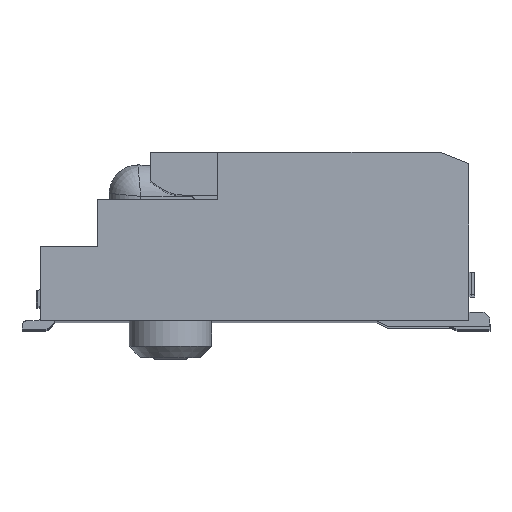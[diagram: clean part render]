
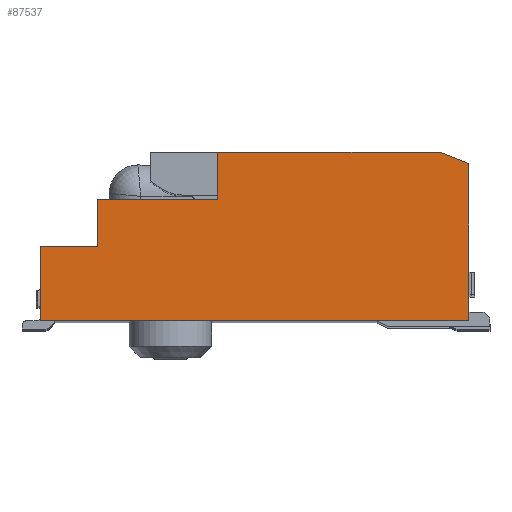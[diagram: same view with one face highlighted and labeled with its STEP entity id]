
A CAD part, top view. The second image highlights one B-rep face of the part: STEP entity #87537.
In plain terms, the highlighted planar face has unit normal (0, 0, 1).
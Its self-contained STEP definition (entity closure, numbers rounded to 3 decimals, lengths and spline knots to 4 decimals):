
#13183=DIRECTION('',(0.,1.,0.));
#13184=VECTOR('',#13183,2.75);
#13185=CARTESIAN_POINT('',(-14.0805,6.0069,10.9));
#13186=LINE('',#13185,#13184);
#13371=DIRECTION('',(-1.,0.,0.));
#13372=VECTOR('',#13371,3.905);
#13373=CARTESIAN_POINT('',(-14.5805,8.9569,10.9));
#13374=LINE('',#13373,#13372);
#13383=DIRECTION('',(-1.,0.,0.));
#13384=VECTOR('',#13383,7.5);
#13385=CARTESIAN_POINT('',(-14.0805,6.0069,10.9));
#13386=LINE('',#13385,#13384);
#13387=DIRECTION('',(0.,1.,0.));
#13388=VECTOR('',#13387,1.3);
#13389=CARTESIAN_POINT('',(-21.5805,6.0069,10.9));
#13390=LINE('',#13389,#13388);
#13391=DIRECTION('',(1.,0.,0.));
#13392=VECTOR('',#13391,1.);
#13393=CARTESIAN_POINT('',(-21.5805,7.3069,10.9));
#13394=LINE('',#13393,#13392);
#13395=DIRECTION('',(0.,1.,0.));
#13396=VECTOR('',#13395,0.82);
#13397=CARTESIAN_POINT('',(-20.5805,7.3069,10.9));
#13398=LINE('',#13397,#13396);
#13399=DIRECTION('',(1.,0.,0.));
#13400=VECTOR('',#13399,2.095);
#13401=CARTESIAN_POINT('',(-20.5805,8.1269,10.9));
#13402=LINE('',#13401,#13400);
#13403=DIRECTION('',(0.,1.,0.));
#13404=VECTOR('',#13403,0.83);
#13405=CARTESIAN_POINT('',(-18.4855,8.1269,10.9));
#13406=LINE('',#13405,#13404);
#13407=DIRECTION('',(0.928,-0.371,0.));
#13408=VECTOR('',#13407,0.5385);
#13409=CARTESIAN_POINT('',(-14.5805,8.9569,10.9));
#13410=LINE('',#13409,#13408);
#59245=CARTESIAN_POINT('',(-21.5805,6.0069,10.9));
#59246=VERTEX_POINT('',#59245);
#59247=CARTESIAN_POINT('',(-14.0805,6.0069,10.9));
#59248=VERTEX_POINT('',#59247);
#59419=CARTESIAN_POINT('',(-14.0805,8.7569,10.9));
#59420=VERTEX_POINT('',#59419);
#59477=CARTESIAN_POINT('',(-18.4855,8.1269,10.9));
#59478=VERTEX_POINT('',#59477);
#59479=CARTESIAN_POINT('',(-20.5805,8.1269,10.9));
#59480=VERTEX_POINT('',#59479);
#59482=CARTESIAN_POINT('',(-18.4855,8.9569,10.9));
#59484=VERTEX_POINT('',#59482);
#59485=CARTESIAN_POINT('',(-14.5805,8.9569,10.9));
#59487=VERTEX_POINT('',#59485);
#59493=CARTESIAN_POINT('',(-21.5805,7.3069,10.9));
#59494=VERTEX_POINT('',#59493);
#59495=CARTESIAN_POINT('',(-20.5805,7.3069,10.9));
#59496=VERTEX_POINT('',#59495);
#87517=CARTESIAN_POINT('',(-21.5805,6.0069,10.9));
#87518=DIRECTION('',(0.,0.,-1.));
#87519=DIRECTION('',(1.,0.,0.));
#87520=AXIS2_PLACEMENT_3D('',#87517,#87518,#87519);
#87521=PLANE('',#87520);
#87523=ORIENTED_EDGE('',*,*,#87522,.T.);
#87525=ORIENTED_EDGE('',*,*,#87524,.T.);
#87527=ORIENTED_EDGE('',*,*,#87526,.T.);
#87529=ORIENTED_EDGE('',*,*,#87528,.T.);
#87530=ORIENTED_EDGE('',*,*,#87459,.T.);
#87531=ORIENTED_EDGE('',*,*,#87473,.T.);
#87532=ORIENTED_EDGE('',*,*,#87489,.F.);
#87533=ORIENTED_EDGE('',*,*,#87509,.T.);
#87534=ORIENTED_EDGE('',*,*,#87220,.F.);
#87535=EDGE_LOOP('',(#87523,#87525,#87527,#87529,#87530,#87531,#87532,#87533,
#87534));
#87536=FACE_OUTER_BOUND('',#87535,.F.);
#87537=ADVANCED_FACE('',(#87536),#87521,.F.);
#87220=EDGE_CURVE('',#59248,#59420,#13186,.T.);
#87459=EDGE_CURVE('',#59480,#59478,#13402,.T.);
#87473=EDGE_CURVE('',#59478,#59484,#13406,.T.);
#87489=EDGE_CURVE('',#59487,#59484,#13374,.T.);
#87509=EDGE_CURVE('',#59487,#59420,#13410,.T.);
#87522=EDGE_CURVE('',#59248,#59246,#13386,.T.);
#87524=EDGE_CURVE('',#59246,#59494,#13390,.T.);
#87526=EDGE_CURVE('',#59494,#59496,#13394,.T.);
#87528=EDGE_CURVE('',#59496,#59480,#13398,.T.);
